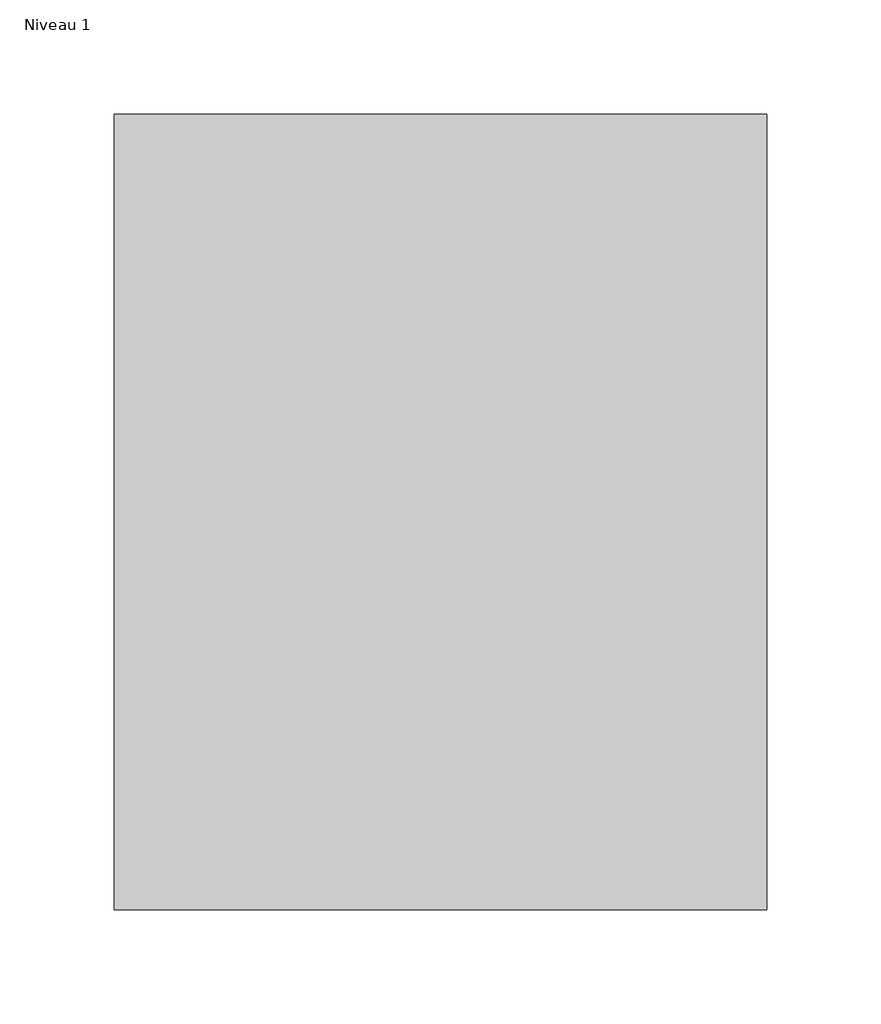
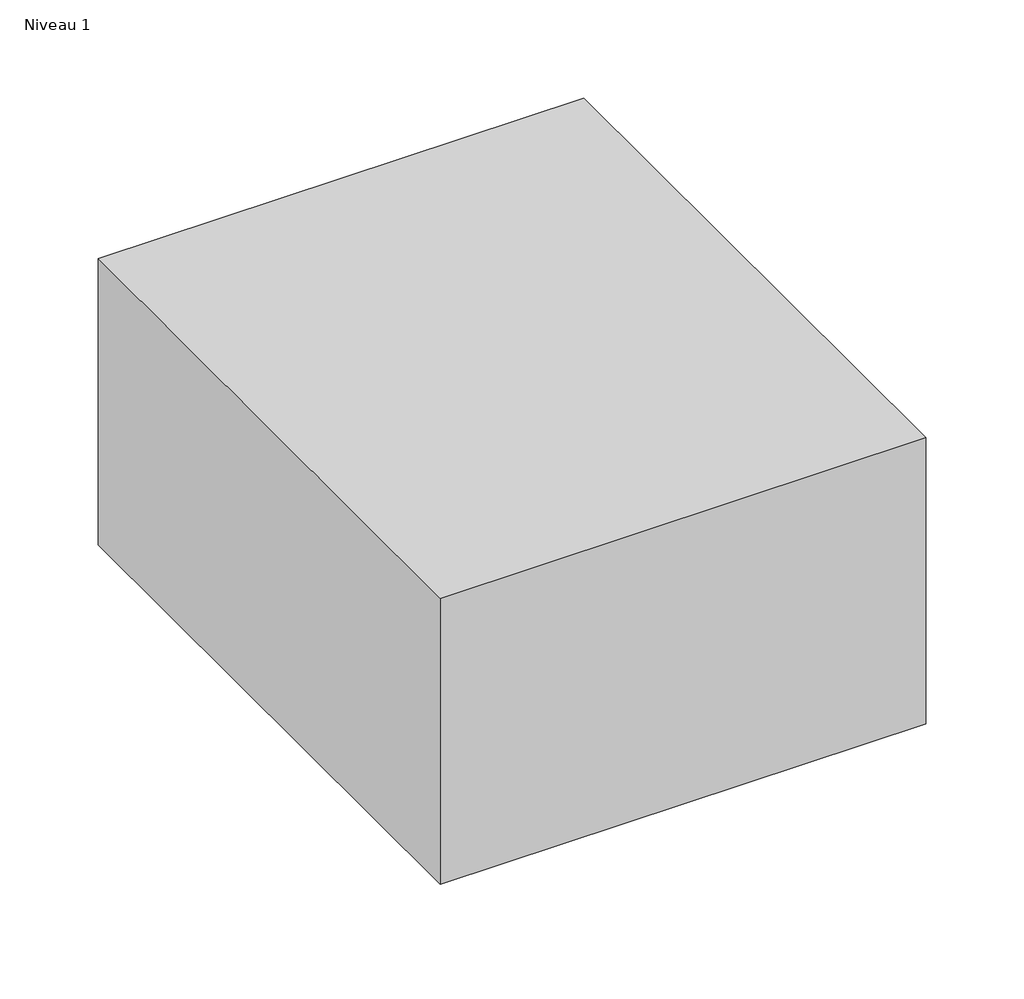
# One storey: 1 proxy.
"""IFC4 building model written with IfcOpenShell, lengths in millimetres."""

from ifc_helpers import new_model, si_unit, origin, place, context, project, spatial, transform, mapped, element, save
from components import electrical_equipment_5af98fe4

model = new_model("IFC4")

# Units and contexts
model_context = context("Model", 3, world=origin())
ifc_project = project(units=[si_unit("LENGTHUNIT", "METRE", prefix="MILLI")], contexts=[model_context])

# Site, building, storey
site = spatial("IfcSite", under=ifc_project)
building = spatial("IfcBuilding", under=site)
storey = spatial("IfcBuildingStorey", under=building, Name="Niveau 1", Elevation=0.0)

# Proxy
placement = place(None, origin())
electrical_equipment_shape = electrical_equipment_5af98fe4(model_context)
element("IfcBuildingElementProxy", 1, Name="COFFRET BATTERIE NU BA.MC : COFFRET BATTERIE NU BA.MC", ObjectType="COFFRET BATTERIE NU BA.MC : COFFRET BATTERIE NU BA.MC", at=placement, inside=storey, context=model_context, shape_type="MappedRepresentation", body=[
    mapped(electrical_equipment_shape, transform((-6218.0799594, 3735.5269151, 0.0), x_axis=(1.0, 0.0, 0.0), y_axis=(0.0, 1.0, 0.0), z_axis=(0.0, 0.0, 1.0))),
])

save(model, "model.ifc")
